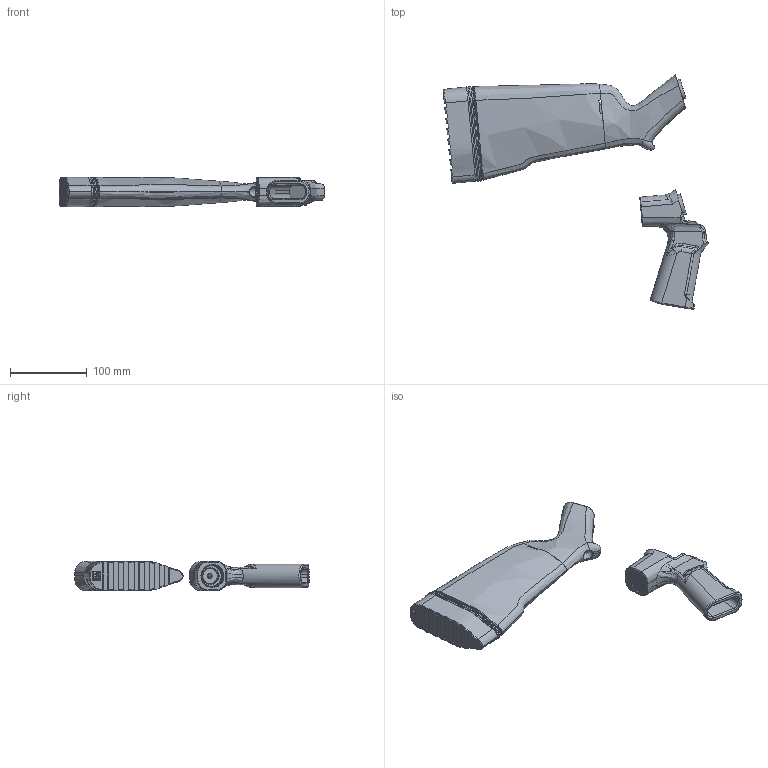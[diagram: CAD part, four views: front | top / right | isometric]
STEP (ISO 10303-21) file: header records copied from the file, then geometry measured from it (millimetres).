
FILE_DESCRIPTION(/* description */ ('','CAx-IF Rec.Pracs.---Representation and Presentation of Product Manufacturing Information (PMI)---4.0---2014-10-13'),/* implementation_level */ '2;1');
FILE_NAME(/* name */ 'Mossberg 500 stock.step',/* time_stamp */ '2024-12-24T17:10:56-06:00',/* author */ (''),/* organization */ (''),/* preprocessor_version */ 'ST-DEVELOPER v20',/* originating_system */ 'Autodesk Translation Framework v13.20.0.188',/* authorisation */ '');
FILE_SCHEMA (('AP242_MANAGED_MODEL_BASED_3D_ENGINEERING_MIM_LF { 1 0 10303 442 1 1 4 }'));
Length unit declared in the file: millimetre
Products named in the file (1): Mossberg 500 final step
Bounding box: 347.09 x 306.1 x 39.04 mm (x, y, z)
Volume: 790602.9 mm3; surface area: 179461.1 mm2
Topology: 6 solids, 6 shells, 840 faces, 2246 edges, 1436 vertices
Faces by surface type: bspline 411, plane 254, cylinder 154, cone 12, sphere 9
Full cylindrical faces by diameter (mm): 3.85 x1, 4 x3, 6.54 x1, 6.64 x13, 7.938 x14, 8 x3, 13 x1, 20 x1, 28.555 x17, 30.163 x18
Entity records: 75901 total; most frequent: CARTESIAN_POINT 57892, ORIENTED_EDGE 4478, DIRECTION 2465, EDGE_CURVE 2239, VERTEX_POINT 1437, B_SPLINE_CURVE_WITH_KNOTS 1007, EDGE_LOOP 882, LINE 847
